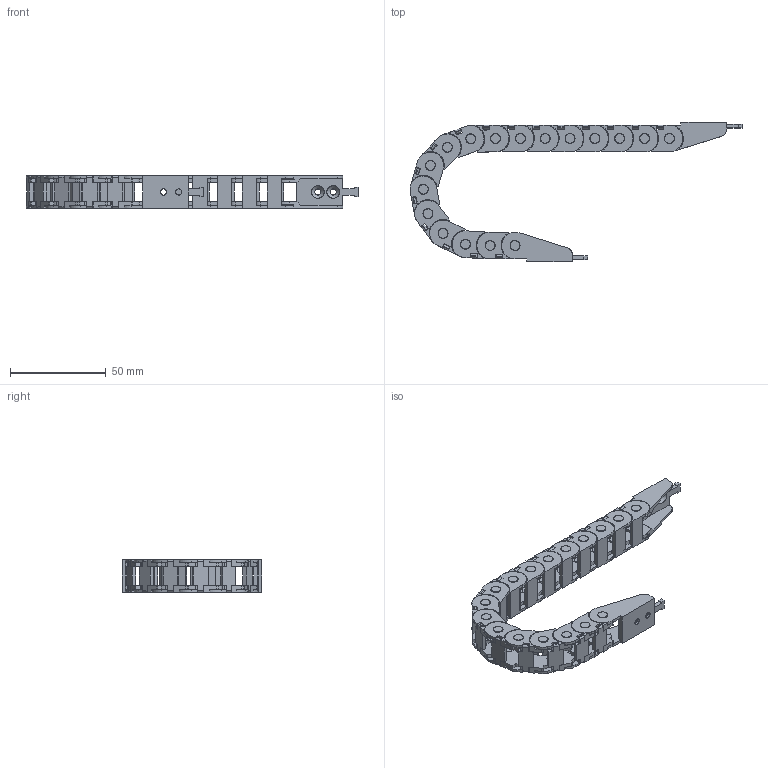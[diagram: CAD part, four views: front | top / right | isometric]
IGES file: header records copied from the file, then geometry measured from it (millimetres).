
Global section: file name: C:\Users\htj04\Desktop\0130-1BN\HSP\3D\HSP 0130-1BN 28R 16Link_1.igs; native system: NX V6.0; preprocessor: SIEMENS UGS NX 6.0; date: 20170724.155143; units: millimetre
Bounding box: 173.77 x 73 x 17.4 mm (x, y, z)
Surface area: 36541.9 mm2 (no closed solid volume)
Topology: 0 solids, 0 shells, 1406 faces, 9537 edges, 9491 vertices
Faces by surface type: bspline 1406
